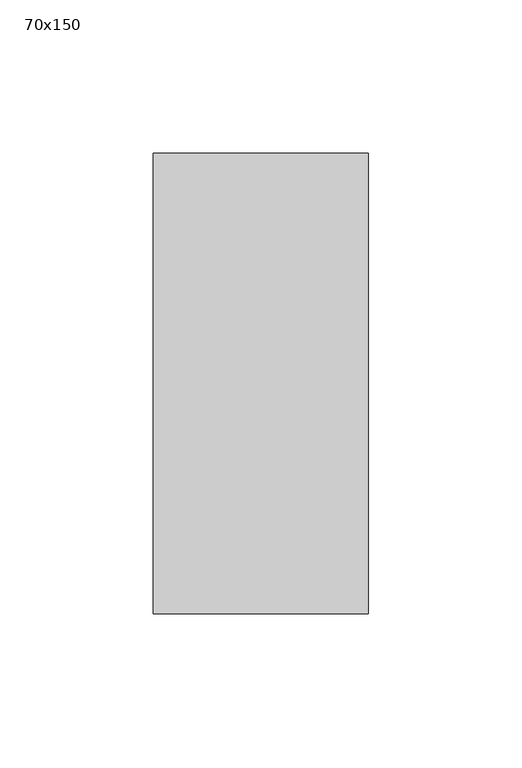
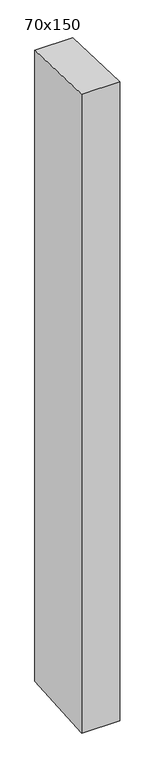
"""IFC4 building model written with IfcOpenShell, lengths in millimetres: member geometry, 長方形のマリオン : 70x150."""

from ifc_helpers import new_model, si_unit, frame, origin, place, context, project, spatial, polyline, outline, extrude, source, transform, mapped, element, save


def member_70x150_1d1a160b(model_context):
    return source(origin(), model_context, "Body", "SweptSolid", [
        extrude(outline(polyline([(-75.0, 2.8600187), (75.0, -2.8600187), (75.0, -1234.4921474), (-75.0, -1244.3868567), (-75.0, 2.8600187)])), frame((-35.0, 0.0, 0.0), z_axis=(1.0, 0.0, 0.0), x_axis=(0.0, 1.0, 0.0)), (0.0, 0.0, 1.0), 70.0),
    ])


if __name__ == "__main__":
    model = new_model("IFC4")
    model_context = context("Model", 3, world=origin())
    ifc_project = project(units=[si_unit("LENGTHUNIT", "METRE", prefix="MILLI")], contexts=[model_context])
    site = spatial("IfcSite", under=ifc_project)
    building = spatial("IfcBuilding", under=site)
    placement = place(None, origin())
    member_70x150_shape = member_70x150_1d1a160b(model_context)
    element("IfcMember", 1, ObjectType="長方形のマリオン : 70x150", at=placement, inside=building, context=model_context, shape_type="MappedRepresentation", body=[
        mapped(member_70x150_shape, transform((0.0, 0.0, 0.0), x_axis=(1.0, 0.0, 0.0), y_axis=(0.0, 1.0, 0.0), z_axis=(0.0, 0.0, 1.0))),
    ])
    save(model, "model.ifc")
